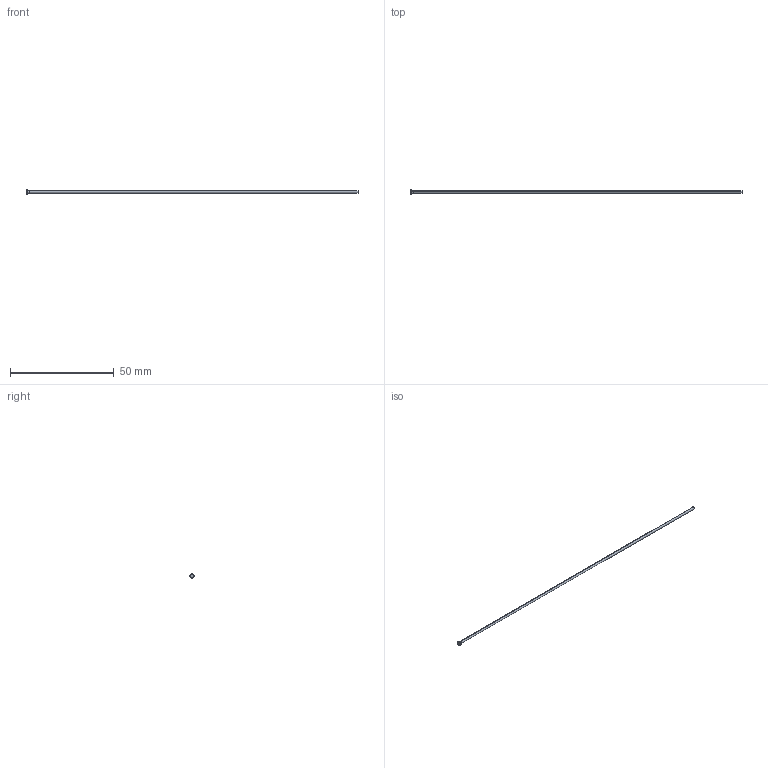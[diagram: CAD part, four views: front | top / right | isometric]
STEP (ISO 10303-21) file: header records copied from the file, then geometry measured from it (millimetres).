
FILE_DESCRIPTION (( 'STEP AP214' ), '1' );
FILE_NAME ('D-1,2x160.STEP', '2020-06-08T09:15:15', ( 'August' ), ( '' ), 'SwSTEP 2.0', 'SolidWorks 2018', '' );
FILE_SCHEMA (( 'AUTOMOTIVE_DESIGN' ));
Length unit declared in the file: millimetre
Products named in the file (1): D-1,2x160
Bounding box: 160 x 2 x 2 mm (x, y, z)
Volume: 182.6 mm3; surface area: 610.1 mm2
Topology: 1 solids, 1 shells, 10 faces, 18 edges, 10 vertices
Faces by surface type: cylinder 4, torus 2, cone 2, plane 2
Entity records: 280 total; most frequent: DIRECTION 52, CARTESIAN_POINT 39, ORIENTED_EDGE 36, AXIS2_PLACEMENT_3D 23, EDGE_CURVE 18, CIRCLE 12, FACE_OUTER_BOUND 10, VERTEX_POINT 10
